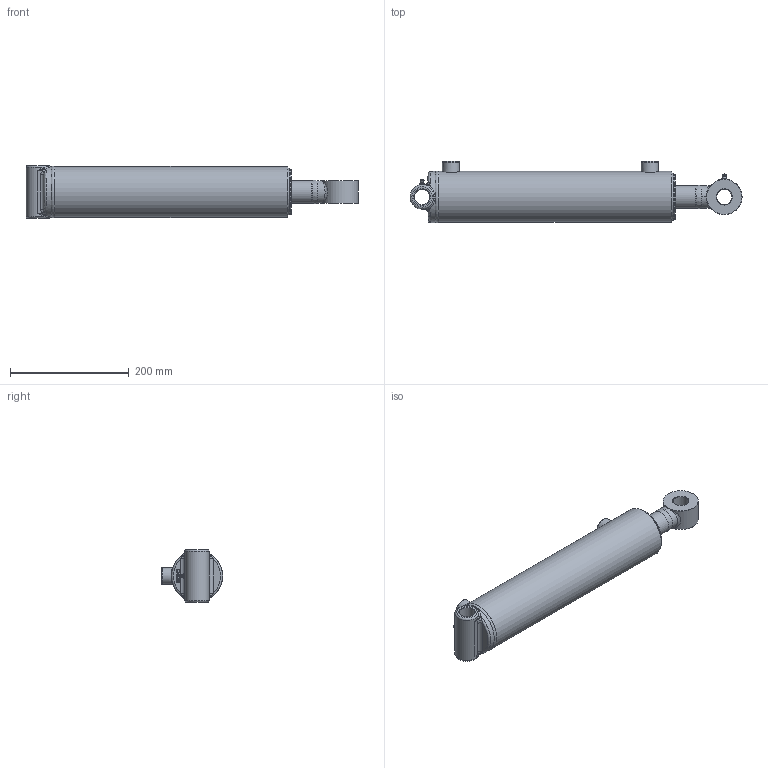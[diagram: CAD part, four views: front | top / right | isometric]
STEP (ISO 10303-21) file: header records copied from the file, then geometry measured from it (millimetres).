
FILE_DESCRIPTION(/* description */ ('Ø3.00 X 12.00 DA'),/* implementation_level */ '2;1');
FILE_NAME(/* name */ 'T:\Aces\Jobs\65677dc300f445968dcf3e228b539abd\result.stp',/* time_stamp */ '2022-10-06T15:04:12+00:00',/* author */ (''),/* organization */ ('PRINCE MANUFACTURING'),/* preprocessor_version */ 'ST-DEVELOPER v18.1',/* originating_system */ 'Autodesk Inventor 2022',/* authorisation */ '');
FILE_SCHEMA (('AUTOMOTIVE_DESIGN { 1 0 10303 214 3 1 1 }'));
Length unit declared in the file: inch
Products named in the file (21): PC3012015A00-200XTXS; 0615-XTSF000-15507; 0515-T-15507; 161500198; 200015603; 06Weld1_C360; 0715-P-100; 220000210; 0815-G-150; 230025104; 230025004; 240000022; 240061334; 240000334; 0208A-HAW2-17813XS; 0108A-HAW2-17813; 210400772; 02Weld_C360; 240020059; 250014150; 270010020
Assembly tree (22 placements, depth 3):
  PC3012015A00-200XTXS
    0615-XTSF000-15507
      0515-T-15507
      161500198
      200015603  x2
      06Weld1_C360
    0715-P-100
    220000210
    0815-G-150
    230025104
    230025004
    240000022
    240061334
    240000334
    0208A-HAW2-17813XS
      0108A-HAW2-17813
      210400772
      02Weld_C360
    240020059
    250014150
    270010020  x2
Bounding box: 558.04 x 104.04 x 88.9 mm (x, y, z)
Volume: 1459135.8 mm3; surface area: 411021.3 mm2
Topology: 26 solids, 26 shells, 564 faces, 1375 edges, 870 vertices
Faces by surface type: bspline 162, plane 135, torus 95, cylinder 84, cone 84, sphere 4
Full cylindrical faces by diameter (mm): 2.143 x4, 3.175 x1, 5.359 x2, 6.35 x2, 9.525 x2, 12.649 x1, 12.7 x1, 12.725 x1, 17.323 x2, 23.444 x1, 25.349 x1, 25.476 x1, 25.781 x1, 26.162 x1, 27.965 x1, 28.575 x2, 38.1 x1, 38.176 x2, 39.294 x2, 40.132 x1, 40.488 x1, 45.263 x1, 46.457 x1, 47.65 x1, 49.276 x2, 50.8 x2, 61.976 x1, 63.5 x2, 66.777 x2, 67.513 x2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
Entity records: 35069 total; most frequent: CARTESIAN_POINT 22422, ORIENTED_EDGE 2512, DIRECTION 2178, EDGE_CURVE 1256, AXIS2_PLACEMENT_3D 915, VERTEX_POINT 809, EDGE_LOOP 595, FACE_OUTER_BOUND 520
